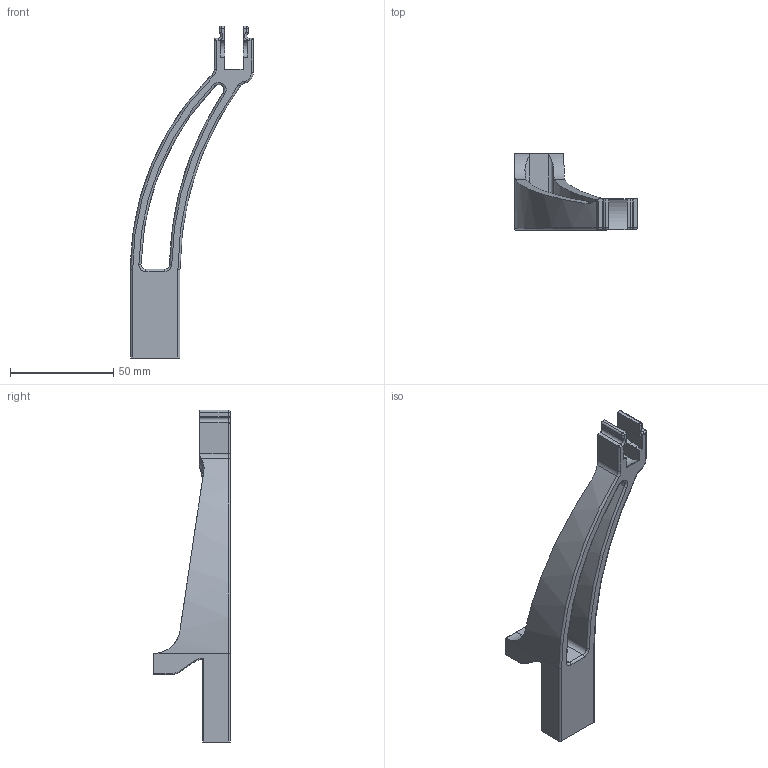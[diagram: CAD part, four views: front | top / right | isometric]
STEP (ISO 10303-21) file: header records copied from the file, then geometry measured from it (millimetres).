
FILE_DESCRIPTION (( 'STEP AP203' ), '1' );
FILE_NAME ('DBP_UPPER_ROLLER_GUIDE_V2r1.STEP', '2018-11-08T14:57:47', ( '' ), ( '' ), 'SwSTEP 2.0', 'SolidWorks 2015', '' );
FILE_SCHEMA (( 'CONFIG_CONTROL_DESIGN' ));
Length unit declared in the file: inch
Products named in the file (1): DBP_UPPER_ROLLER_GUIDE_V2r1
Bounding box: 59.55 x 37.2 x 161 mm (x, y, z)
Volume: 29546.7 mm3; surface area: 18227.3 mm2
Topology: 1 solids, 1 shells, 162 faces, 434 edges, 269 vertices
Faces by surface type: cylinder 75, plane 56, torus 20, bspline 5, sphere 4, cone 2
Entity records: 5459 total; most frequent: CARTESIAN_POINT 1353, DIRECTION 861, ORIENTED_EDGE 860, EDGE_CURVE 430, AXIS2_PLACEMENT_3D 315, VERTEX_POINT 269, VECTOR 231, LINE 231
